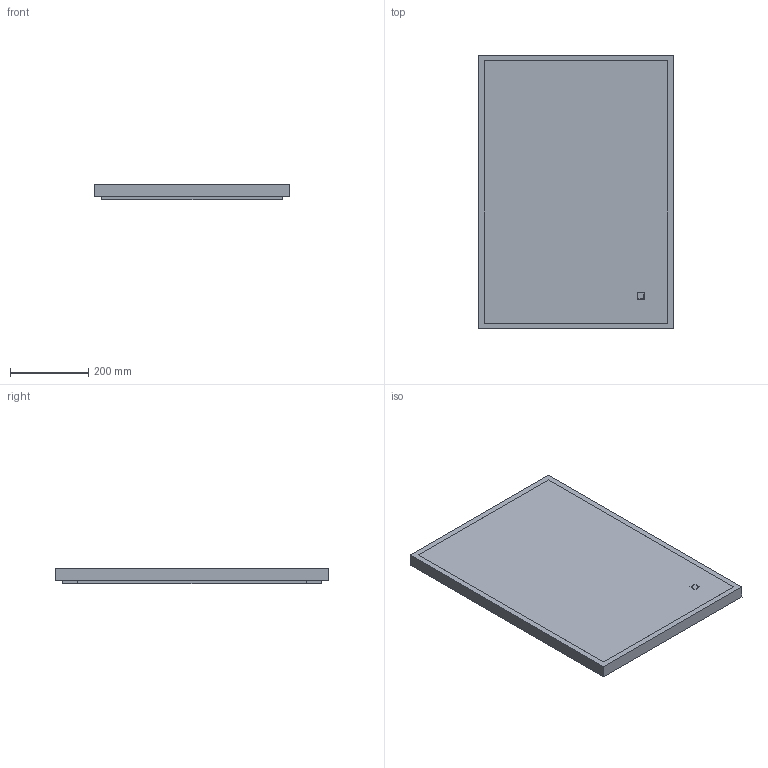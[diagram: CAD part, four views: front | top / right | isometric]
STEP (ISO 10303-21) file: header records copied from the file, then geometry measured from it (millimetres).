
FILE_DESCRIPTION(/* description */ (''),/* implementation_level */ '2;1');
FILE_NAME(/* name */ 'W:\3D_Daten\010_Inventor\Modell Unique\Unique 0500 Vereinfacht\Unique 0500 Vereinfacht.stp',/* time_stamp */ '2018-01-09T07:44:26+01:00',/* author */ ('oliver.waldmann'),/* organization */ (''),/* preprocessor_version */ 'ST-DEVELOPER v16.5',/* originating_system */ 'Autodesk Inventor 2017',/* authorisation */ '');
FILE_SCHEMA (('AUTOMOTIVE_DESIGN { 1 0 10303 214 3 1 1 }'));
Length unit declared in the file: millimetre
Products named in the file (1): Unique 0500 Vereinfacht
Bounding box: 500 x 700 x 40 mm (x, y, z)
Volume: 5963877.1 mm3; surface area: 977351.1 mm2
Topology: 1 solids, 1 shells, 44 faces, 108 edges, 72 vertices
Faces by surface type: plane 44
Entity records: 1349 total; most frequent: CARTESIAN_POINT 225, ORIENTED_EDGE 216, DIRECTION 198, LINE 108, VECTOR 108, EDGE_CURVE 108, VERTEX_POINT 72, EDGE_LOOP 50
